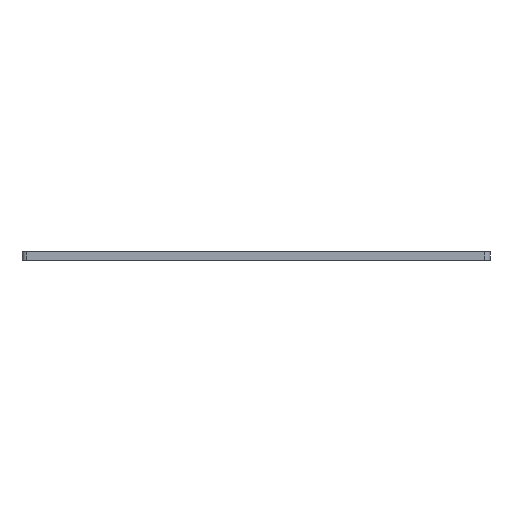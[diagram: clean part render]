
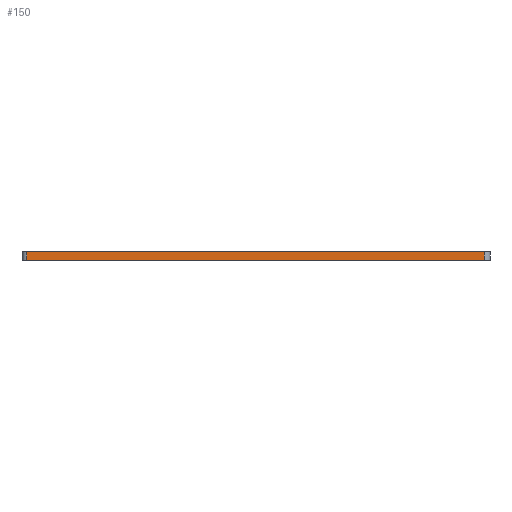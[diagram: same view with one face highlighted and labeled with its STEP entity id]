
A CAD part, left-side view. The second image highlights one B-rep face of the part: STEP entity #150.
In plain terms, the highlighted planar face has unit normal (-1, 0, 0).
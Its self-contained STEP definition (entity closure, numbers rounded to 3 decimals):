
#32 = EDGE_CURVE('',#33,#35,#37,.T.);
#33 = VERTEX_POINT('',#34);
#34 = CARTESIAN_POINT('',(100.751,-146.505,0.));
#35 = VERTEX_POINT('',#36);
#36 = CARTESIAN_POINT('',(100.751,-146.505,1.6));
#37 = SURFACE_CURVE('',#38,(#42,#54),.PCURVE_S1.);
#38 = LINE('',#39,#40);
#39 = CARTESIAN_POINT('',(100.751,-146.505,0.));
#40 = VECTOR('',#41,1.);
#41 = DIRECTION('',(0.,0.,1.));
#42 = PCURVE('',#43,#48);
#43 = CYLINDRICAL_SURFACE('',#44,1.);
#44 = AXIS2_PLACEMENT_3D('',#45,#46,#47);
#45 = CARTESIAN_POINT('',(101.751,-146.505,0.));
#46 = DIRECTION('',(0.,0.,-1.));
#47 = DIRECTION('',(1.,0.,0.));
#48 = DEFINITIONAL_REPRESENTATION('',(#49),#53);
#49 = LINE('',#50,#51);
#50 = CARTESIAN_POINT('',(-3.142,0.));
#51 = VECTOR('',#52,1.);
#52 = DIRECTION('',(0.,-1.));
#53 = ( GEOMETRIC_REPRESENTATION_CONTEXT(2) 
PARAMETRIC_REPRESENTATION_CONTEXT() REPRESENTATION_CONTEXT('2D SPACE',''
  ) );
#54 = PCURVE('',#55,#60);
#55 = PLANE('',#56);
#56 = AXIS2_PLACEMENT_3D('',#57,#58,#59);
#57 = CARTESIAN_POINT('',(100.751,-63.378,0.));
#58 = DIRECTION('',(1.,0.,0.));
#59 = DIRECTION('',(0.,-1.,0.));
#60 = DEFINITIONAL_REPRESENTATION('',(#61),#65);
#61 = LINE('',#62,#63);
#62 = CARTESIAN_POINT('',(83.127,0.));
#63 = VECTOR('',#64,1.);
#64 = DIRECTION('',(0.,-1.));
#65 = ( GEOMETRIC_REPRESENTATION_CONTEXT(2) 
PARAMETRIC_REPRESENTATION_CONTEXT() REPRESENTATION_CONTEXT('2D SPACE',''
  ) );
#84 = PLANE('',#85);
#85 = AXIS2_PLACEMENT_3D('',#86,#87,#88);
#86 = CARTESIAN_POINT('',(148.497,-105.001,1.6));
#87 = DIRECTION('',(0.,0.,1.));
#88 = DIRECTION('',(1.,0.,0.));
#139 = PLANE('',#140);
#140 = AXIS2_PLACEMENT_3D('',#141,#142,#143);
#141 = CARTESIAN_POINT('',(148.497,-105.001,0.));
#142 = DIRECTION('',(0.,0.,1.));
#143 = DIRECTION('',(1.,0.,0.));
#150 = ADVANCED_FACE('',(#151),#55,.F.);
#151 = FACE_BOUND('',#152,.F.);
#152 = EDGE_LOOP('',(#153,#183,#204,#205));
#153 = ORIENTED_EDGE('',*,*,#154,.T.);
#154 = EDGE_CURVE('',#155,#157,#159,.T.);
#155 = VERTEX_POINT('',#156);
#156 = CARTESIAN_POINT('',(100.751,-63.378,0.));
#157 = VERTEX_POINT('',#158);
#158 = CARTESIAN_POINT('',(100.751,-63.378,1.6));
#159 = SURFACE_CURVE('',#160,(#164,#171),.PCURVE_S1.);
#160 = LINE('',#161,#162);
#161 = CARTESIAN_POINT('',(100.751,-63.378,0.));
#162 = VECTOR('',#163,1.);
#163 = DIRECTION('',(0.,0.,1.));
#164 = PCURVE('',#55,#165);
#165 = DEFINITIONAL_REPRESENTATION('',(#166),#170);
#166 = LINE('',#167,#168);
#167 = CARTESIAN_POINT('',(0.,0.));
#168 = VECTOR('',#169,1.);
#169 = DIRECTION('',(0.,-1.));
#170 = ( GEOMETRIC_REPRESENTATION_CONTEXT(2) 
PARAMETRIC_REPRESENTATION_CONTEXT() REPRESENTATION_CONTEXT('2D SPACE',''
  ) );
#171 = PCURVE('',#172,#177);
#172 = CYLINDRICAL_SURFACE('',#173,0.939);
#173 = AXIS2_PLACEMENT_3D('',#174,#175,#176);
#174 = CARTESIAN_POINT('',(101.688,-63.441,0.));
#175 = DIRECTION('',(0.,0.,-1.));
#176 = DIRECTION('',(1.,0.,0.));
#177 = DEFINITIONAL_REPRESENTATION('',(#178),#182);
#178 = LINE('',#179,#180);
#179 = CARTESIAN_POINT('',(-3.074,0.));
#180 = VECTOR('',#181,1.);
#181 = DIRECTION('',(0.,-1.));
#182 = ( GEOMETRIC_REPRESENTATION_CONTEXT(2) 
PARAMETRIC_REPRESENTATION_CONTEXT() REPRESENTATION_CONTEXT('2D SPACE',''
  ) );
#183 = ORIENTED_EDGE('',*,*,#184,.T.);
#184 = EDGE_CURVE('',#157,#35,#185,.T.);
#185 = SURFACE_CURVE('',#186,(#190,#197),.PCURVE_S1.);
#186 = LINE('',#187,#188);
#187 = CARTESIAN_POINT('',(100.751,-63.378,1.6));
#188 = VECTOR('',#189,1.);
#189 = DIRECTION('',(0.,-1.,0.));
#190 = PCURVE('',#55,#191);
#191 = DEFINITIONAL_REPRESENTATION('',(#192),#196);
#192 = LINE('',#193,#194);
#193 = CARTESIAN_POINT('',(0.,-1.6));
#194 = VECTOR('',#195,1.);
#195 = DIRECTION('',(1.,0.));
#196 = ( GEOMETRIC_REPRESENTATION_CONTEXT(2) 
PARAMETRIC_REPRESENTATION_CONTEXT() REPRESENTATION_CONTEXT('2D SPACE',''
  ) );
#197 = PCURVE('',#84,#198);
#198 = DEFINITIONAL_REPRESENTATION('',(#199),#203);
#199 = LINE('',#200,#201);
#200 = CARTESIAN_POINT('',(-47.746,41.623));
#201 = VECTOR('',#202,1.);
#202 = DIRECTION('',(0.,-1.));
#203 = ( GEOMETRIC_REPRESENTATION_CONTEXT(2) 
PARAMETRIC_REPRESENTATION_CONTEXT() REPRESENTATION_CONTEXT('2D SPACE',''
  ) );
#204 = ORIENTED_EDGE('',*,*,#32,.F.);
#205 = ORIENTED_EDGE('',*,*,#206,.F.);
#206 = EDGE_CURVE('',#155,#33,#207,.T.);
#207 = SURFACE_CURVE('',#208,(#212,#219),.PCURVE_S1.);
#208 = LINE('',#209,#210);
#209 = CARTESIAN_POINT('',(100.751,-63.378,0.));
#210 = VECTOR('',#211,1.);
#211 = DIRECTION('',(0.,-1.,0.));
#212 = PCURVE('',#55,#213);
#213 = DEFINITIONAL_REPRESENTATION('',(#214),#218);
#214 = LINE('',#215,#216);
#215 = CARTESIAN_POINT('',(0.,0.));
#216 = VECTOR('',#217,1.);
#217 = DIRECTION('',(1.,0.));
#218 = ( GEOMETRIC_REPRESENTATION_CONTEXT(2) 
PARAMETRIC_REPRESENTATION_CONTEXT() REPRESENTATION_CONTEXT('2D SPACE',''
  ) );
#219 = PCURVE('',#139,#220);
#220 = DEFINITIONAL_REPRESENTATION('',(#221),#225);
#221 = LINE('',#222,#223);
#222 = CARTESIAN_POINT('',(-47.746,41.623));
#223 = VECTOR('',#224,1.);
#224 = DIRECTION('',(0.,-1.));
#225 = ( GEOMETRIC_REPRESENTATION_CONTEXT(2) 
PARAMETRIC_REPRESENTATION_CONTEXT() REPRESENTATION_CONTEXT('2D SPACE',''
  ) );
